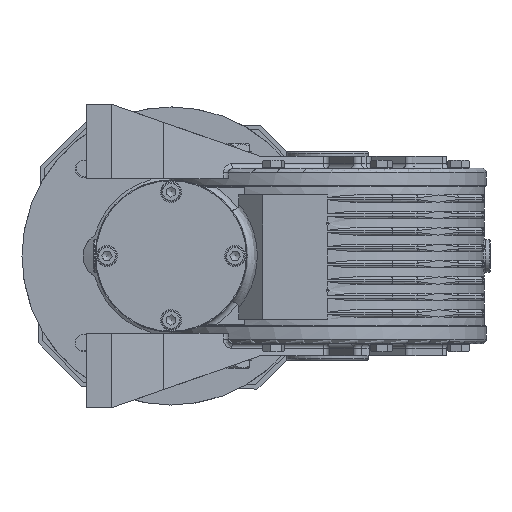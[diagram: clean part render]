
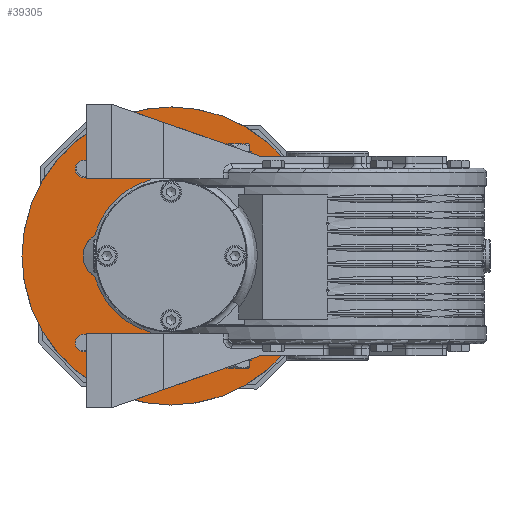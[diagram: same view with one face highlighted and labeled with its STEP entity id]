
A CAD part, left-side view. The second image highlights one B-rep face of the part: STEP entity #39305.
In plain terms, the highlighted planar face has unit normal (-1, 0, 0) as drawn and (0, 0, 1) by its records, which use the part's own axes.
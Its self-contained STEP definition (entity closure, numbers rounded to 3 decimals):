
#37542=CARTESIAN_POINT('',(-64.336,-58.336,11.0));
#37543=VERTEX_POINT('',#37542);
#37544=CARTESIAN_POINT('',(-58.336,-58.336,11.0));
#37545=DIRECTION('',(0.0,0.0,-1.0));
#37546=DIRECTION('',(1.0,0.0,0.0));
#37547=AXIS2_PLACEMENT_3D('',#37544,#37545,#37546);
#37548=CIRCLE('',#37547,6.);
#37549=EDGE_CURVE('',#37543,#37543,#37548,.T.);
#37562=CARTESIAN_POINT('',(52.336,58.336,11.0));
#37563=VERTEX_POINT('',#37562);
#37564=CARTESIAN_POINT('',(58.336,58.336,11.0));
#37565=DIRECTION('',(0.0,0.0,-1.0));
#37566=DIRECTION('',(1.0,0.0,0.0));
#37567=AXIS2_PLACEMENT_3D('',#37564,#37565,#37566);
#37568=CIRCLE('',#37567,6.);
#37569=EDGE_CURVE('',#37563,#37563,#37568,.T.);
#37582=CARTESIAN_POINT('',(-64.336,58.336,11.0));
#37583=VERTEX_POINT('',#37582);
#37584=CARTESIAN_POINT('',(-58.336,58.336,11.0));
#37585=DIRECTION('',(0.0,0.0,-1.0));
#37586=DIRECTION('',(1.0,0.0,0.0));
#37587=AXIS2_PLACEMENT_3D('',#37584,#37585,#37586);
#37588=CIRCLE('',#37587,6.);
#37589=EDGE_CURVE('',#37583,#37583,#37588,.T.);
#37602=CARTESIAN_POINT('',(52.336,-58.336,11.0));
#37603=VERTEX_POINT('',#37602);
#37604=CARTESIAN_POINT('',(58.336,-58.336,11.0));
#37605=DIRECTION('',(0.0,0.0,-1.0));
#37606=DIRECTION('',(1.0,0.0,0.0));
#37607=AXIS2_PLACEMENT_3D('',#37604,#37605,#37606);
#37608=CIRCLE('',#37607,6.);
#37609=EDGE_CURVE('',#37603,#37603,#37608,.T.);
#39045=CARTESIAN_POINT('',(-13.747,51.186,11.0));
#39046=VERTEX_POINT('',#39045);
#39053=CARTESIAN_POINT('',(-51.186,13.747,11.0));
#39054=VERTEX_POINT('',#39053);
#39055=CARTESIAN_POINT('',(0.0,0.0,11.0));
#39056=DIRECTION('',(0.0,0.0,-1.0));
#39057=DIRECTION('',(-1.0,0.0,0.0));
#39058=AXIS2_PLACEMENT_3D('',#39055,#39056,#39057);
#39059=CIRCLE('',#39058,53.);
#39060=EDGE_CURVE('',#39054,#39046,#39059,.T.);
#39078=CARTESIAN_POINT('',(13.747,51.186,11.0));
#39079=VERTEX_POINT('',#39078);
#39086=CARTESIAN_POINT('',(0.0,43.0,11.0));
#39087=DIRECTION('',(0.0,0.0,-1.0));
#39088=DIRECTION('',(-1.0,0.0,0.0));
#39089=AXIS2_PLACEMENT_3D('',#39086,#39087,#39088);
#39090=CIRCLE('',#39089,16.0);
#39091=EDGE_CURVE('',#39046,#39079,#39090,.T.);
#39103=CARTESIAN_POINT('',(51.186,13.747,11.0));
#39104=VERTEX_POINT('',#39103);
#39111=CARTESIAN_POINT('',(0.0,0.0,11.0));
#39112=DIRECTION('',(0.0,0.0,-1.0));
#39113=DIRECTION('',(-1.0,0.0,0.0));
#39114=AXIS2_PLACEMENT_3D('',#39111,#39112,#39113);
#39115=CIRCLE('',#39114,53.);
#39116=EDGE_CURVE('',#39079,#39104,#39115,.T.);
#39140=CARTESIAN_POINT('',(-51.186,-13.747,11.0));
#39141=VERTEX_POINT('',#39140);
#39148=CARTESIAN_POINT('',(-13.747,-51.186,11.0));
#39149=VERTEX_POINT('',#39148);
#39150=CARTESIAN_POINT('',(0.0,0.0,11.0));
#39151=DIRECTION('',(0.0,0.0,-1.0));
#39152=DIRECTION('',(-1.0,0.0,0.0));
#39153=AXIS2_PLACEMENT_3D('',#39150,#39151,#39152);
#39154=CIRCLE('',#39153,53.);
#39155=EDGE_CURVE('',#39149,#39141,#39154,.T.);
#39172=CARTESIAN_POINT('',(13.747,-51.186,11.0));
#39173=VERTEX_POINT('',#39172);
#39180=CARTESIAN_POINT('',(51.186,-13.747,11.0));
#39181=VERTEX_POINT('',#39180);
#39182=CARTESIAN_POINT('',(0.0,0.0,11.0));
#39183=DIRECTION('',(0.0,0.0,-1.0));
#39184=DIRECTION('',(-1.0,0.0,0.0));
#39185=AXIS2_PLACEMENT_3D('',#39182,#39183,#39184);
#39186=CIRCLE('',#39185,53.);
#39187=EDGE_CURVE('',#39181,#39173,#39186,.T.);
#39205=CARTESIAN_POINT('',(43.0,0.,11.0));
#39206=DIRECTION('',(0.0,0.0,-1.0));
#39207=DIRECTION('',(-1.0,0.0,0.0));
#39208=AXIS2_PLACEMENT_3D('',#39205,#39206,#39207);
#39209=CIRCLE('',#39208,16.0);
#39210=EDGE_CURVE('',#39104,#39181,#39209,.T.);
#39224=CARTESIAN_POINT('',(-43.0,0.,11.0));
#39225=DIRECTION('',(0.0,0.0,-1.0));
#39226=DIRECTION('',(-1.0,0.0,0.0));
#39227=AXIS2_PLACEMENT_3D('',#39224,#39225,#39226);
#39228=CIRCLE('',#39227,16.0);
#39229=EDGE_CURVE('',#39141,#39054,#39228,.T.);
#39243=CARTESIAN_POINT('',(0.,-43.0,11.0));
#39244=DIRECTION('',(0.0,0.0,-1.0));
#39245=DIRECTION('',(-1.0,0.0,0.0));
#39246=AXIS2_PLACEMENT_3D('',#39243,#39244,#39245);
#39247=CIRCLE('',#39246,16.0);
#39248=EDGE_CURVE('',#39173,#39149,#39247,.T.);
#39260=CARTESIAN_POINT('',(100.0,0.,11.0));
#39261=VERTEX_POINT('',#39260);
#39262=CARTESIAN_POINT('',(0.0,0.0,11.0));
#39263=DIRECTION('',(0.0,0.0,-1.0));
#39264=DIRECTION('',(-1.0,0.0,0.0));
#39265=AXIS2_PLACEMENT_3D('',#39262,#39263,#39264);
#39266=CIRCLE('',#39265,100.0);
#39267=EDGE_CURVE('',#39261,#39261,#39266,.T.);
#39275=CARTESIAN_POINT('',(0.0,0.0,11.0));
#39276=DIRECTION('',(0.0,0.0,-1.0));
#39277=DIRECTION('',(-1.0,0.0,0.0));
#39278=AXIS2_PLACEMENT_3D('',#39275,#39276,#39277);
#39279=PLANE('',#39278);
#39280=ORIENTED_EDGE('',*,*,#39267,.F.);
#39281=EDGE_LOOP('',(#39280));
#39282=FACE_OUTER_BOUND('',#39281,.T.);
#39283=ORIENTED_EDGE('',*,*,#37549,.T.);
#39284=EDGE_LOOP('',(#39283));
#39285=FACE_BOUND('',#39284,.T.);
#39286=ORIENTED_EDGE('',*,*,#37569,.T.);
#39287=EDGE_LOOP('',(#39286));
#39288=FACE_BOUND('',#39287,.T.);
#39289=ORIENTED_EDGE('',*,*,#37589,.T.);
#39290=EDGE_LOOP('',(#39289));
#39291=FACE_BOUND('',#39290,.T.);
#39292=ORIENTED_EDGE('',*,*,#37609,.T.);
#39293=EDGE_LOOP('',(#39292));
#39294=FACE_BOUND('',#39293,.T.);
#39295=ORIENTED_EDGE('',*,*,#39187,.T.);
#39296=ORIENTED_EDGE('',*,*,#39248,.T.);
#39297=ORIENTED_EDGE('',*,*,#39155,.T.);
#39298=ORIENTED_EDGE('',*,*,#39229,.T.);
#39299=ORIENTED_EDGE('',*,*,#39060,.T.);
#39300=ORIENTED_EDGE('',*,*,#39091,.T.);
#39301=ORIENTED_EDGE('',*,*,#39116,.T.);
#39302=ORIENTED_EDGE('',*,*,#39210,.T.);
#39303=EDGE_LOOP('',(#39295,#39296,#39297,#39298,#39299,#39300,#39301,#39302));
#39304=FACE_BOUND('',#39303,.T.);
#39305=ADVANCED_FACE('',(#39282,#39285,#39288,#39291,#39294,#39304),#39279,.F.);
